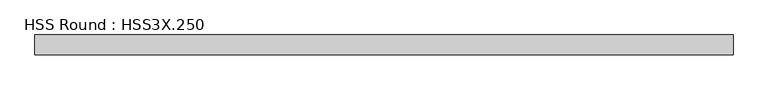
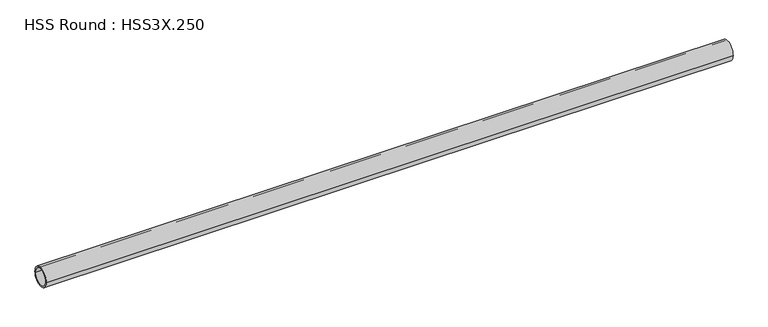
"""IFC4 building model written with IfcOpenShell, lengths in millimetres: member geometry, HSS Round : HSS3X.250."""

from ifc_helpers import new_model, si_unit, point, frame, origin, origin_2d, place, context, project, spatial, circle_curve, trimmed, segment, composite_curve, outline, extrude, source, transform, mapped, element, save


def hss_round_hss3x_250_120c92ce(model_context):
    return source(origin(), model_context, "Body", "SweptSolid", [
        extrude(outline(composite_curve([segment(trimmed(circle_curve(origin_2d(), 38.1), [point((-38.1, 0.0))], [point((38.1, 0.0))], False, "CARTESIAN"), True, "CONTINUOUS"), segment(trimmed(circle_curve(origin_2d(), 38.1), [point((38.1, 0.0))], [point((-38.1, 0.0))], False, "CARTESIAN"), True, "CONTINUOUS")], self_intersect=False), holes=[composite_curve([segment(trimmed(circle_curve(origin_2d(), 31.75), [point((31.75, 0.0))], [point((-31.75, 0.0))], True, "CARTESIAN"), True, "CONTINUOUS"), segment(trimmed(circle_curve(origin_2d(), 31.75), [point((-31.75, 0.0))], [point((31.75, 0.0))], True, "CARTESIAN"), True, "CONTINUOUS")], self_intersect=False)]), frame((-1391.285756, 0.0, 0.0), z_axis=(1.0, 0.0, 0.0), x_axis=(0.0, 1.0, 0.0)), (0.0, 0.0, 1.0), 2649.5025806),
    ])


if __name__ == "__main__":
    model = new_model("IFC4")
    model_context = context("Model", 3, world=origin())
    ifc_project = project(units=[si_unit("LENGTHUNIT", "METRE", prefix="MILLI")], contexts=[model_context])
    site = spatial("IfcSite", under=ifc_project)
    building = spatial("IfcBuilding", under=site)
    placement = place(None, origin())
    hss_round_hss3x_250_shape = hss_round_hss3x_250_120c92ce(model_context)
    element("IfcMember", 1, ObjectType="HSS Round : HSS3X.250", at=placement, inside=building, context=model_context, shape_type="MappedRepresentation", body=[
        mapped(hss_round_hss3x_250_shape, transform((0.0, 0.0, 0.0), x_axis=(1.0, 0.0, 0.0), y_axis=(0.0, 1.0, 0.0), z_axis=(0.0, 0.0, 1.0))),
    ])
    save(model, "model.ifc")
